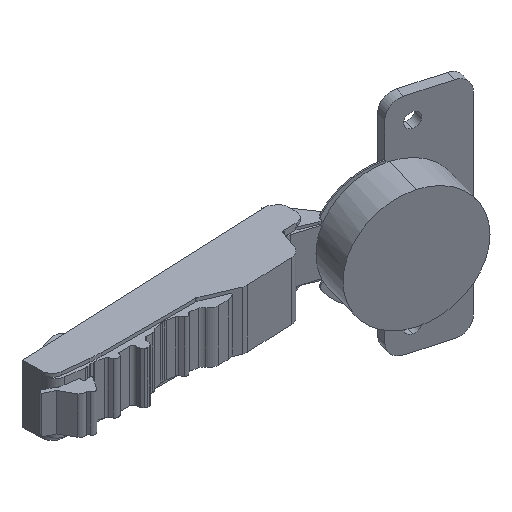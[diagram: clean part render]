
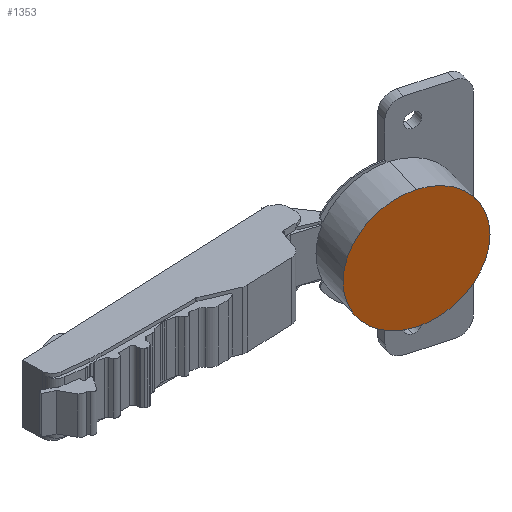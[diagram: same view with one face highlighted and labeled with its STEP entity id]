
A CAD part, isometric view. The second image highlights one B-rep face of the part: STEP entity #1353.
In plain terms, the highlighted planar face has unit normal (-0.273, -0.962, 0).
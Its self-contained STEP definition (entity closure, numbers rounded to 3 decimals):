
#43 = ORIENTED_EDGE ( 'NONE', *, *, #3170, .T. ) ;
#114 = PLANE ( 'NONE',  #2814 ) ;
#158 = DIRECTION ( 'NONE',  ( -0.273, -0.962, 0. ) ) ;
#443 = CARTESIAN_POINT ( 'NONE',  ( 8.748, -37.976, -7.7 ) ) ;
#620 = CIRCLE ( 'NONE', #5008, 17.4 ) ;
#664 = DIRECTION ( 'NONE',  ( 0., 0., -1. ) ) ;
#872 = DIRECTION ( 'NONE',  ( 0., 0., -1. ) ) ;
#1189 = VERTEX_POINT ( 'NONE', #3781 ) ;
#1353 = ADVANCED_FACE ( 'NONE', ( #3946 ), #114, .F. ) ;
#2206 = EDGE_CURVE ( 'NONE', #3967, #1189, #620, .T. ) ;
#2636 = DIRECTION ( 'NONE',  ( -0.273, -0.962, 0. ) ) ;
#2814 = AXIS2_PLACEMENT_3D ( 'NONE', #443, #3280, #3174 ) ;
#3164 = AXIS2_PLACEMENT_3D ( 'NONE', #3892, #158, #872 ) ;
#3170 = EDGE_CURVE ( 'NONE', #1189, #3967, #4466, .T. ) ;
#3174 = DIRECTION ( 'NONE',  ( 0., 0., 1. ) ) ;
#3280 = DIRECTION ( 'NONE',  ( 0.273, 0.962, 0. ) ) ;
#3601 = EDGE_LOOP ( 'NONE', ( #4912, #43 ) ) ;
#3767 = CARTESIAN_POINT ( 'NONE',  ( -1.801, -34.979, 0. ) ) ;
#3781 = CARTESIAN_POINT ( 'NONE',  ( -1.801, -34.979, -17.4 ) ) ;
#3892 = CARTESIAN_POINT ( 'NONE',  ( -1.801, -34.979, 0. ) ) ;
#3946 = FACE_OUTER_BOUND ( 'NONE', #3601, .T. ) ;
#3967 = VERTEX_POINT ( 'NONE', #4700 ) ;
#4466 = CIRCLE ( 'NONE', #3164, 17.4 ) ;
#4700 = CARTESIAN_POINT ( 'NONE',  ( -1.801, -34.979, 17.4 ) ) ;
#4912 = ORIENTED_EDGE ( 'NONE', *, *, #2206, .T. ) ;
#5008 = AXIS2_PLACEMENT_3D ( 'NONE', #3767, #2636, #664 ) ;
